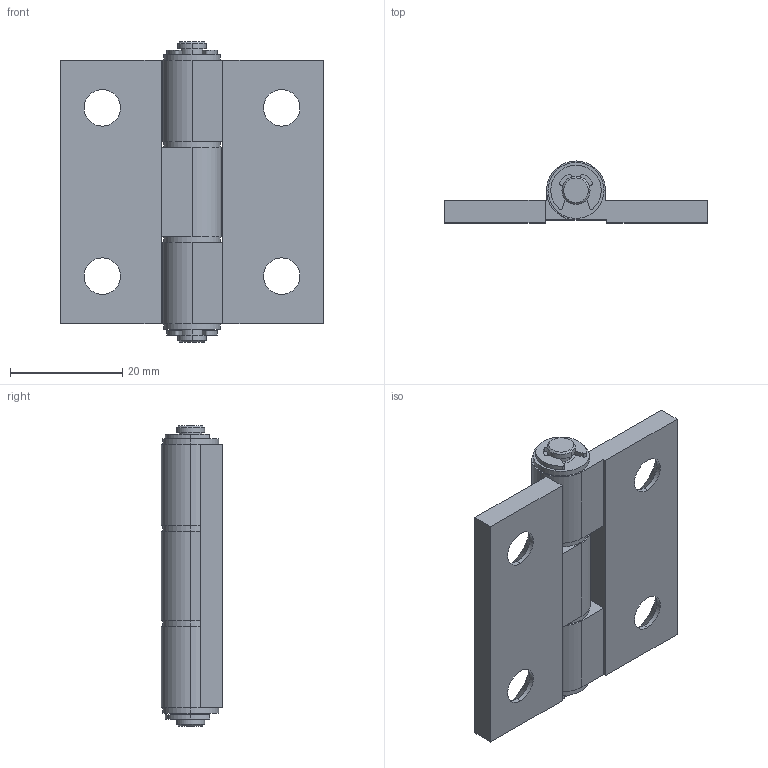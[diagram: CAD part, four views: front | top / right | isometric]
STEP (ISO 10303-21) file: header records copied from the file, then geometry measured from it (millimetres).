
FILE_DESCRIPTION (( 'STEP AP203' ), '1' );
FILE_NAME ('SK2-168-10.STEP', '2020-01-03T01:27:59', ( 'admin' ), ( 'Microsoft' ), 'SwSTEP 2.0', 'SolidWorks 2018', '' );
FILE_SCHEMA (( 'CONFIG_CONTROL_DESIGN' ));
Length unit declared in the file: millimetre
Products named in the file (6): SK2-168-10; 2-168-10-F1; 2-168-10-F2; 2-168-10-F3; 2-168-10-F4; e rings gb_GB_CONNECTING_PIECE_RINGS_HR 4
Assembly tree (9 placements, depth 2):
  SK2-168-10
    2-168-10-F1
    2-168-10-F2
    2-168-10-F3  x4
    2-168-10-F4
    e rings gb_GB_CONNECTING_PIECE_RINGS_HR 4  x2
Bounding box: 47 x 11 x 53.5 mm (x, y, z)
Volume: 10343.2 mm3; surface area: 8585.2 mm2
Topology: 9 solids, 9 shells, 142 faces, 348 edges, 228 vertices
Faces by surface type: cylinder 78, plane 52, cone 12
Entity records: 3778 total; most frequent: DIRECTION 582, CARTESIAN_POINT 518, ORIENTED_EDGE 492, EDGE_CURVE 246, AXIS2_PLACEMENT_3D 224, VERTEX_POINT 160, VECTOR 134, LINE 134
